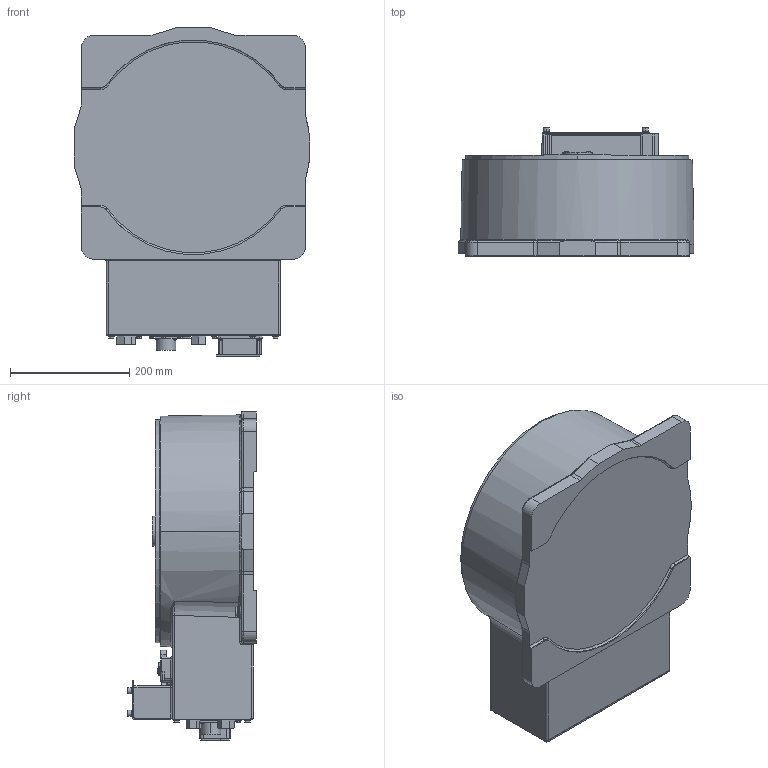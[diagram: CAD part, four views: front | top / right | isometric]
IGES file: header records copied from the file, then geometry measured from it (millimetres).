
Start section:  PTC IGES file: gp25-c00_s-base.igs
Global section: file name: gp25-c00_s-base.igs; native system: Creo Parametric by Parametric Technology Corporation; preprocessor: 2015030; author: ip-naka; organization: Unknown; date: 20180604.190517; units: millimetre
Bounding box: 395.46 x 215.4 x 549.85 mm (x, y, z)
Volume: 26076441.1 mm3; surface area: 714192.3 mm2
Topology: 1 solids, 3 shells, 1076 faces, 2682 edges, 1681 vertices
Faces by surface type: revolution 568, bspline 508
